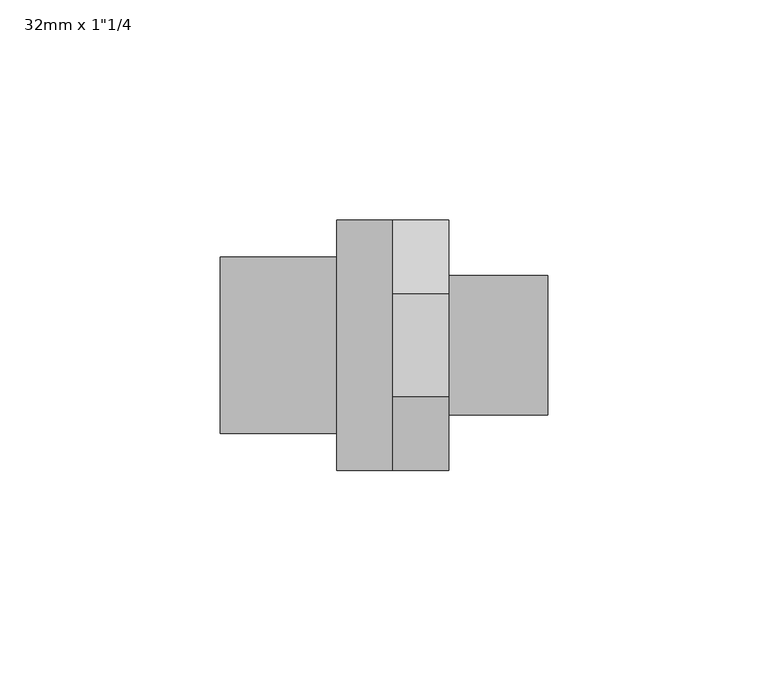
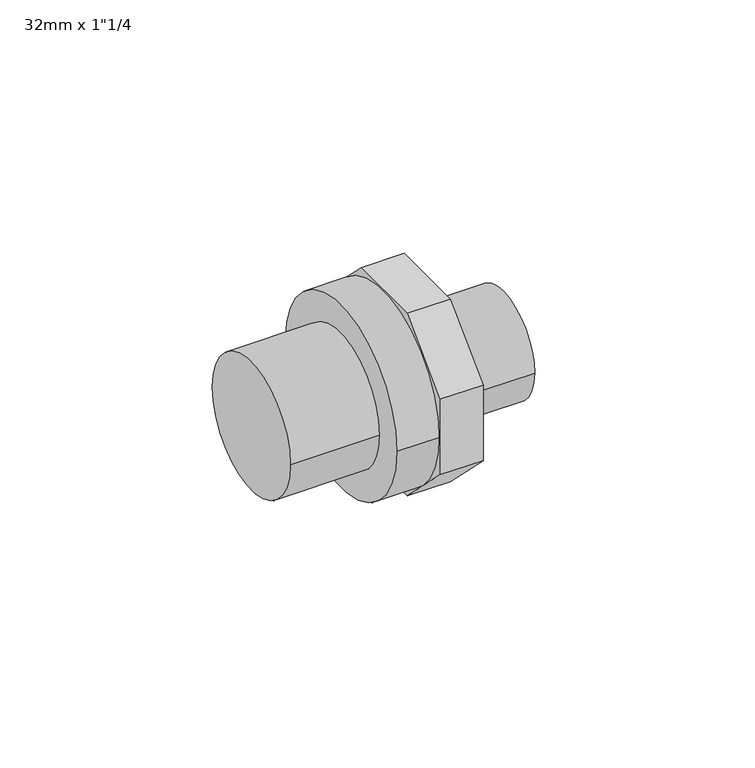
"""IFC4 building model written with IfcOpenShell, lengths in millimetres: pipe fitting geometry."""

from ifc_helpers import new_model, si_unit, point, frame, origin, origin_2d, place, context, project, spatial, polyline, circle_curve, trimmed, segment, composite_curve, outline, extrude, source, transform, mapped, element, save


def pipe_fitting_2be74236(model_context):
    return source(origin(), model_context, "Body", "SweptSolid", [
        extrude(outline(composite_curve([segment(trimmed(circle_curve(origin_2d(), 15.875), [point((-15.875, 0.0))], [point((15.875, 0.0))], False, "CARTESIAN"), True, "CONTINUOUS"), segment(trimmed(circle_curve(origin_2d(), 15.875), [point((15.875, 0.0))], [point((-15.875, 0.0))], False, "CARTESIAN"), True, "CONTINUOUS")], self_intersect=False)), frame((38.75, 0.0, 0.0), z_axis=(1.0, 0.0, 0.0), x_axis=(0.0, 1.0, 0.0)), (0.0, 0.0, 1.0), 22.5),
        extrude(outline(polyline([(11.8050865, 28.5), (28.5, 11.8050865), (28.5, -11.8050865), (11.8050865, -28.5), (-11.8050865, -28.5), (-28.5, -11.8050865), (-28.5, 11.8050865), (-11.8050865, 28.5), (11.8050865, 28.5)])), frame((26.0, 0.0, 0.0), z_axis=(1.0, 0.0, 0.0), x_axis=(0.0, 1.0, 0.0)), (0.0, 0.0, 1.0), 12.75),
        extrude(outline(composite_curve([segment(trimmed(circle_curve(origin_2d(), 28.5), [point((-28.5, 0.0))], [point((28.5, 0.0))], False, "CARTESIAN"), True, "CONTINUOUS"), segment(trimmed(circle_curve(origin_2d(), 28.5), [point((28.5, 0.0))], [point((-28.5, 0.0))], False, "CARTESIAN"), True, "CONTINUOUS")], self_intersect=False)), frame((13.25, 0.0, 0.0), z_axis=(1.0, 0.0, 0.0), x_axis=(0.0, 1.0, 0.0)), (0.0, 0.0, 1.0), 12.75),
        extrude(outline(composite_curve([segment(trimmed(circle_curve(origin_2d(), 20.0), [point((-20.0, 0.0))], [point((20.0, 0.0))], False, "CARTESIAN"), True, "CONTINUOUS"), segment(trimmed(circle_curve(origin_2d(), 20.0), [point((20.0, 0.0))], [point((-20.0, 0.0))], False, "CARTESIAN"), True, "CONTINUOUS")], self_intersect=False)), frame((-13.25, 0.0, 0.0), z_axis=(1.0, 0.0, 0.0), x_axis=(0.0, 1.0, 0.0)), (0.0, 0.0, 1.0), 26.5),
    ])


if __name__ == "__main__":
    model = new_model("IFC4")
    model_context = context("Model", 3, world=origin())
    ifc_project = project(units=[si_unit("LENGTHUNIT", "METRE", prefix="MILLI")], contexts=[model_context])
    site = spatial("IfcSite", under=ifc_project)
    building = spatial("IfcBuilding", under=site)
    placement = place(None, origin())
    pipe_fitting_shape = pipe_fitting_2be74236(model_context)
    element("IfcPipeFitting", 1, ObjectType="PipeFitting_HTA_CPVC_AdaptorNipplesB : 32mm x 1\"1/4", at=placement, inside=building, context=model_context, shape_type="MappedRepresentation", body=[
        mapped(pipe_fitting_shape, transform((0.0, 0.0, 0.0), x_axis=(1.0, 0.0, 0.0), y_axis=(0.0, 1.0, 0.0), z_axis=(0.0, 0.0, 1.0))),
    ])
    save(model, "model.ifc")
